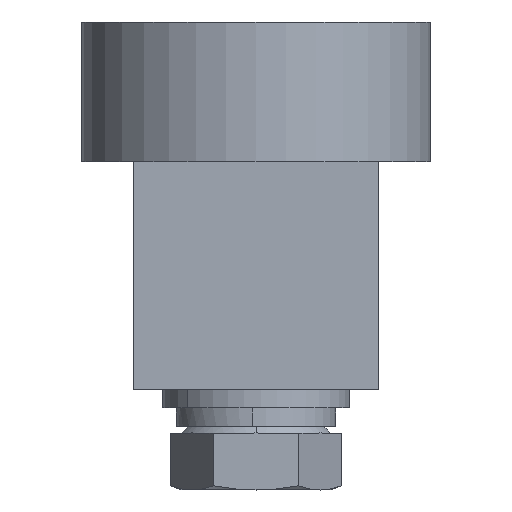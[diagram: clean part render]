
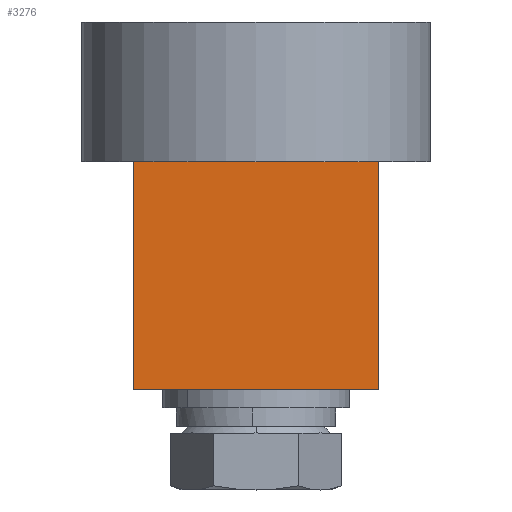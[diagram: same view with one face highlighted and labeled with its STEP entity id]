
A CAD part, left-side view. The second image highlights one B-rep face of the part: STEP entity #3276.
In plain terms, the highlighted planar face has unit normal (-1, 0, 0).
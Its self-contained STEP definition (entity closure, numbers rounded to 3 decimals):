
#69 = DIRECTION ( 'NONE',  ( 1., 0., 0. ) ) ;
#672 = CARTESIAN_POINT ( 'NONE',  ( 0., 21., -19.5 ) ) ;
#857 = CARTESIAN_POINT ( 'NONE',  ( 0., 0., 0. ) ) ;
#1514 = DIRECTION ( 'NONE',  ( 0., 0., 1. ) ) ;
#2056 = ORIENTED_EDGE ( 'NONE', *, *, #8393, .T. ) ;
#2133 = ORIENTED_EDGE ( 'NONE', *, *, #5397, .F. ) ;
#2261 = PLANE ( 'NONE',  #3967 ) ;
#3107 = LINE ( 'NONE', #857, #4855 ) ;
#3276 = ADVANCED_FACE ( 'NONE', ( #8961 ), #2261, .F. ) ;
#3489 = LINE ( 'NONE', #11219, #10124 ) ;
#3967 = AXIS2_PLACEMENT_3D ( 'NONE', #11698, #69, #10941 ) ;
#4317 = ORIENTED_EDGE ( 'NONE', *, *, #6923, .T. ) ;
#4569 = DIRECTION ( 'NONE',  ( 0., 1., 0. ) ) ;
#4855 = VECTOR ( 'NONE', #11855, 1000. ) ;
#5166 = ORIENTED_EDGE ( 'NONE', *, *, #11460, .F. ) ;
#5216 = VERTEX_POINT ( 'NONE', #7764 ) ;
#5276 = VECTOR ( 'NONE', #4569, 1000. ) ;
#5397 = EDGE_CURVE ( 'NONE', #7774, #7677, #3489, .T. ) ;
#6708 = CARTESIAN_POINT ( 'NONE',  ( 0., 0., -19.5 ) ) ;
#6807 = VECTOR ( 'NONE', #10949, 1000. ) ;
#6923 = EDGE_CURVE ( 'NONE', #12541, #5216, #3107, .T. ) ;
#7677 = VERTEX_POINT ( 'NONE', #10572 ) ;
#7764 = CARTESIAN_POINT ( 'NONE',  ( 0., 0., 0. ) ) ;
#7774 = VERTEX_POINT ( 'NONE', #11798 ) ;
#7999 = LINE ( 'NONE', #9225, #6807 ) ;
#8393 = EDGE_CURVE ( 'NONE', #5216, #7677, #7999, .T. ) ;
#8477 = EDGE_LOOP ( 'NONE', ( #2056, #2133, #5166, #4317 ) ) ;
#8961 = FACE_OUTER_BOUND ( 'NONE', #8477, .T. ) ;
#9225 = CARTESIAN_POINT ( 'NONE',  ( 0., 21., 0. ) ) ;
#10124 = VECTOR ( 'NONE', #1514, 1000. ) ;
#10572 = CARTESIAN_POINT ( 'NONE',  ( 0., 21., 0. ) ) ;
#10941 = DIRECTION ( 'NONE',  ( 0., 0., -1. ) ) ;
#10949 = DIRECTION ( 'NONE',  ( 0., 1., 0. ) ) ;
#11219 = CARTESIAN_POINT ( 'NONE',  ( 0., 21., 0. ) ) ;
#11460 = EDGE_CURVE ( 'NONE', #12541, #7774, #12307, .T. ) ;
#11698 = CARTESIAN_POINT ( 'NONE',  ( 0., 21., -19.5 ) ) ;
#11798 = CARTESIAN_POINT ( 'NONE',  ( 0., 21., -19.5 ) ) ;
#11855 = DIRECTION ( 'NONE',  ( 0., 0., 1. ) ) ;
#12307 = LINE ( 'NONE', #672, #5276 ) ;
#12541 = VERTEX_POINT ( 'NONE', #6708 ) ;
